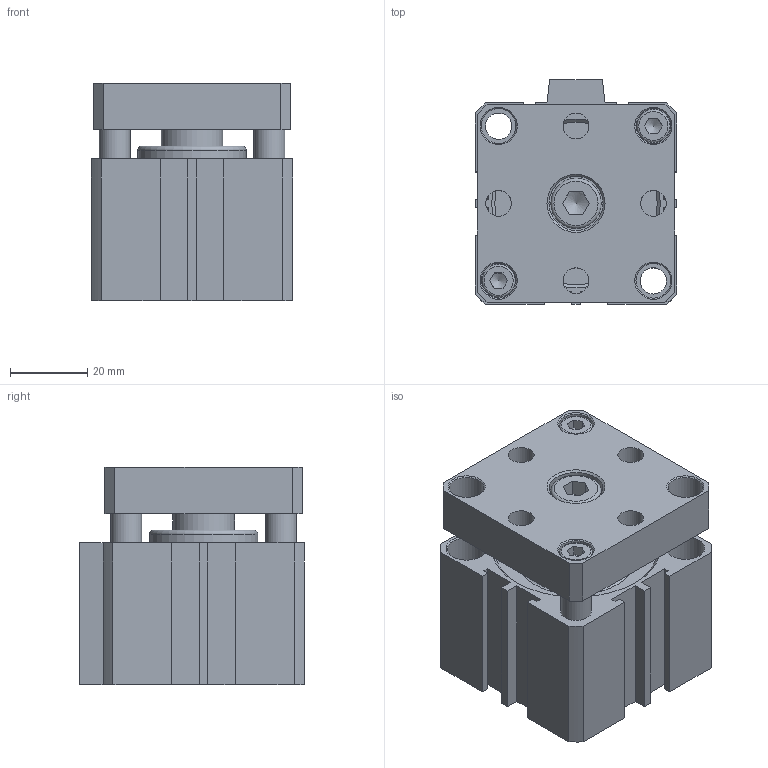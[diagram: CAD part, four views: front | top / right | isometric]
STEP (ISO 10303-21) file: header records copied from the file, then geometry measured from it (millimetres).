
FILE_DESCRIPTION((''),'2;1');
FILE_NAME('I:\3D電子目錄\氣缸\JTD\JTD\JTD40\JTD40x10.stp','2007-08-14T18:51:40',('Administrator'),(''),'Autodesk Inventor 11','Autodesk Inventor 11','');
FILE_SCHEMA(('AUTOMOTIVE_DESIGN { 1 0 10303 214 1 1 1 1 }'));
Length unit declared in the file: millimetre
Products named in the file (5): JTD40; R 形環 42; ISO 4762 M8 x 12; ISO 4762 M5 x 16
Assembly tree (5 placements, depth 2):
  JTD40
    JTD40
    R 形環 42
    ISO 4762 M8 x 12
    ISO 4762 M5 x 16  x2
Bounding box: 52 x 58 x 56.1 mm (x, y, z)
Volume: 110541 mm3; surface area: 35279.9 mm2
Topology: 5 solids, 5 shells, 195 faces, 448 edges, 290 vertices
Faces by surface type: plane 113, cylinder 43, cone 18, bspline 16, torus 5
Full cylindrical faces by diameter (mm): 1.9 x2, 2.2 x2, 5 x2, 6.8 x2, 8 x5, 8.5 x2, 9 x2, 9.5 x2, 10 x2, 13 x1, 16 x1, 28 x1, 29 x1, 42 x4, 44.5 x2
Entity records: 5157 total; most frequent: CARTESIAN_POINT 1103, DIRECTION 814, ORIENTED_EDGE 704, EDGE_CURVE 352, AXIS2_PLACEMENT_3D 299, EDGE_LOOP 294, VERTEX_POINT 266, VECTOR 216
